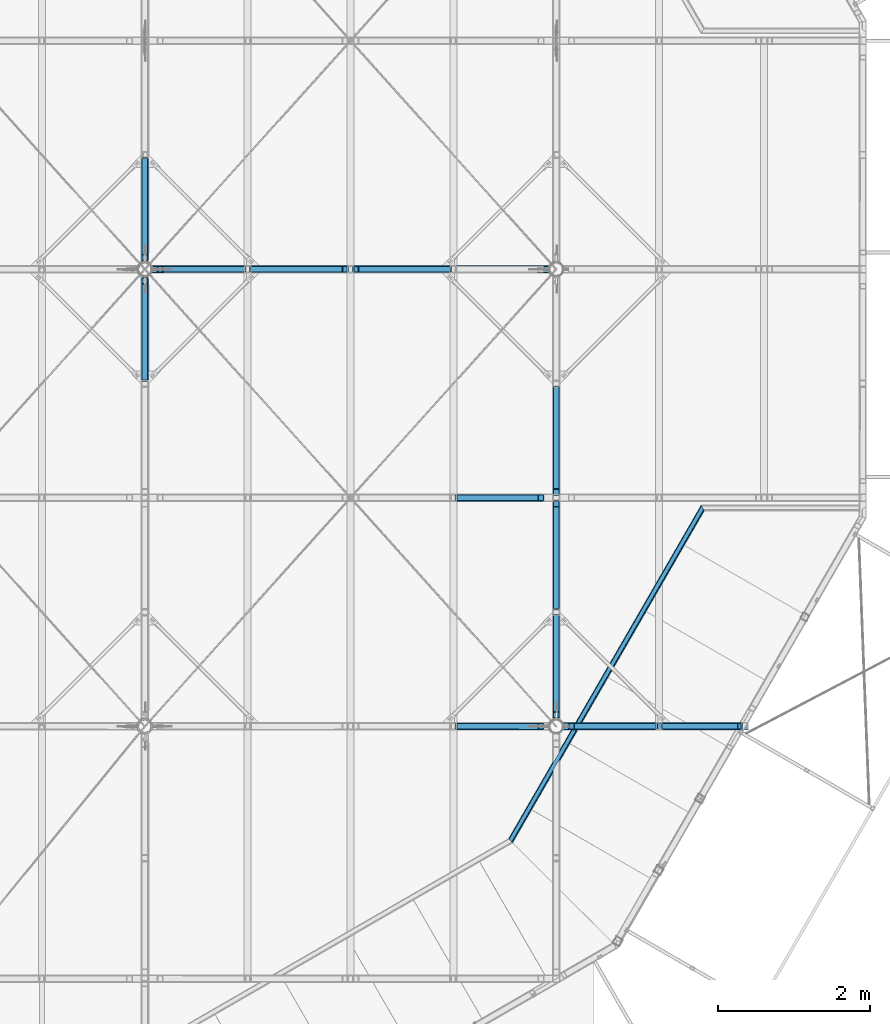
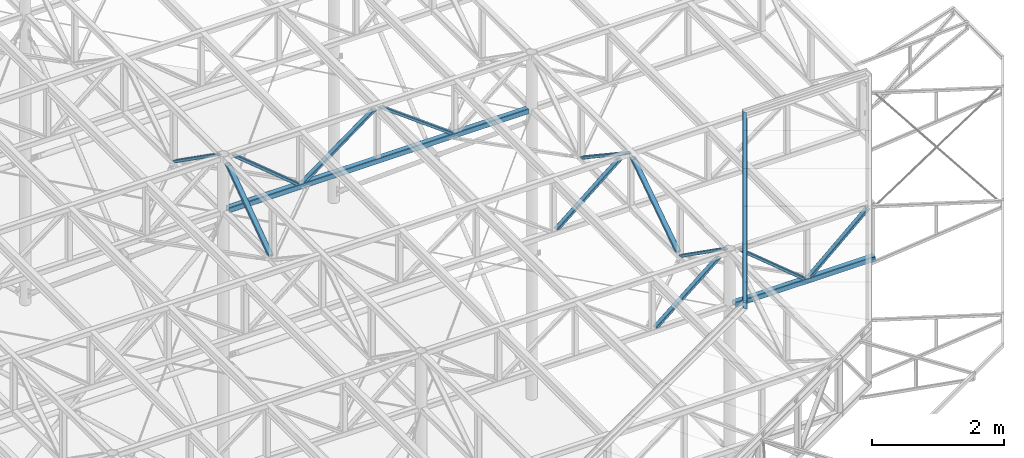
# One storey, part 49 of 132: 16 discrete accessories, 9 elements without a shape of their own.
"""IFC2X3 building model written with IfcOpenShell, lengths in millimetres."""

from ifc_helpers import new_model, si_unit, frame, origin_with_axes, origin_2d_with_axis, place, context, subcontext, project, spatial, hollow_rectangle, circle, l_section, extrude, boolean, clip, halfspace, material, type_object, element, aggregate, save


model = new_model("IFC2X3")

# Units and contexts
model_context = context("Model", 3, precision=1e-05, world=origin_with_axes())
body_context = subcontext(model_context, "Body", "Model", "MODEL_VIEW")
ifc_project = project(units=[si_unit("LENGTHUNIT", "METRE", prefix="MILLI"), si_unit("AREAUNIT", "SQUARE_METRE"), si_unit("VOLUMEUNIT", "CUBIC_METRE"), si_unit("MASSUNIT", "GRAM", prefix="KILO"), si_unit("TIMEUNIT", "SECOND"), si_unit("PLANEANGLEUNIT", "RADIAN"), si_unit("SOLIDANGLEUNIT", "STERADIAN"), si_unit("THERMODYNAMICTEMPERATUREUNIT", "DEGREE_CELSIUS"), si_unit("LUMINOUSINTENSITYUNIT", "LUMEN")], contexts=[model_context])

# Site, building, storey
site_placement = place(None, origin_with_axes())
site = spatial("IfcSite", under=ifc_project, at=site_placement, Name="Budowa", CompositionType="ELEMENT")
building_placement = place(site_placement, origin_with_axes())
building = spatial("IfcBuilding", under=site, at=building_placement, Name="Undefined", CompositionType="ELEMENT")
storey_placement = place(building_placement, origin_with_axes())
storey = spatial("IfcBuildingStorey", under=building, at=storey_placement, Name="Undefined", CompositionType="ELEMENT", Elevation=0.0)

# Assembly, discrete accessory
assembly_1_placement = place(storey_placement, origin_with_axes())
assembly_1 = element("IfcElementAssembly", 1, at=assembly_1_placement, inside=storey, Name="Steel Assembly", AssemblyPlace="NOTDEFINED", PredefinedType="RIGID_FRAME")
ifc_material = material(Name="STEEL/S235")
discrete_accessory_type = type_object("IfcDiscreteAccessoryType", Name="BEAM")
discrete_accessory_1_placement = place(assembly_1_placement, frame((19626.7468734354, 4507.40524646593, 13965.0), z_axis=(0.866025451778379, -0.499999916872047, 0.0), x_axis=(0.5000000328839, 0.866025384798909, 0.0)))
discrete_accessory_1 = element("IfcDiscreteAccessory", 2, at=discrete_accessory_1_placement, type_object=discrete_accessory_type, material=ifc_material, Name="BEAM", ObjectType="L50*6", context=body_context, shape_type="Clipping", body=[
    clip(clip(extrude(l_section(Depth=50.0, Width=50.0, Thickness=6.0, FilletRadius=7.0, EdgeRadius=3.5, at=origin_2d_with_axis()), frame((5093.05115517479, 0.0, 0.0), z_axis=(-1.0, 0.0, 0.0), x_axis=(0.0, -1.0, 0.0)), (0.0, 0.0, 1.0), 5154.16), halfspace(frame((5053.07872392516, 0.0, -24.9999999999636), z_axis=(-0.86602536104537, 0.0, -0.50000007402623), x_axis=(0.0, 1.0, 0.0)), True)), halfspace(frame((3.51101334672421e-08, 0.0, -24.9999999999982), z_axis=(-0.965925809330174, 0.0, -0.258819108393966), x_axis=(0.0, 1.0, 0.0)), False)),
])
aggregate(assembly_1, [discrete_accessory_1])

assembly_2_placement = place(storey_placement, origin_with_axes())
assembly_2 = element("IfcElementAssembly", 3, at=assembly_2_placement, inside=storey, Name="Steel Assembly", AssemblyPlace="NOTDEFINED", PredefinedType="RIGID_FRAME")
discrete_accessory_2_placement = place(assembly_2_placement, frame((19630.9837363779, 4507.74370878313, 13955.0), z_axis=(0.0, 0.0, 1.0), x_axis=(0.5000000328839, 0.866025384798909, 0.0)))
discrete_accessory_2 = element("IfcDiscreteAccessory", 4, at=discrete_accessory_2_placement, type_object=discrete_accessory_type, material=ifc_material, Name="BEAM", ObjectType="L150*75*9", context=body_context, shape_type="Clipping", body=[
    clip(clip(extrude(l_section(Depth=150.0, Width=75.0, Thickness=9.0, FilletRadius=10.5, EdgeRadius=5.5, at=origin_2d_with_axis()), frame((5115.82197564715, 0.0, -1.81898940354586e-12), z_axis=(-1.0, 0.0, 0.0), x_axis=(0.0, -1.0, 0.0)), (0.0, 0.0, 1.0), 5207.48), halfspace(frame((5055.86332877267, 37.5000000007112, -1.81898940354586e-12), z_axis=(-0.86602545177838, 0.499999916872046, 0.0), x_axis=(0.0, 0.0, 1.0)), True)), halfspace(frame((1.9117578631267e-08, 37.5000000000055, -1.81898940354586e-12), z_axis=(-0.965925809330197, 0.258819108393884, 0.0), x_axis=(0.0, 0.0, 1.0)), False)),
])
aggregate(assembly_2, [discrete_accessory_2])

# Assembly, discrete accessories
assembly_3_placement = place(storey_placement, origin_with_axes())
assembly_3 = element("IfcElementAssembly", 5, at=assembly_3_placement, inside=storey, Name="Steel Assembly", AssemblyPlace="NOTDEFINED", PredefinedType="RIGID_FRAME")
discrete_accessory_3_placement = place(assembly_3_placement, frame((20365.8999999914, 6000.00000004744, 13830.0000000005), z_axis=(0.0, -1.0, 0.0), x_axis=(0.77030791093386, 0.0, -0.637672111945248)))
solid_1 = boolean("DIFFERENCE", boolean("DIFFERENCE", extrude(hollow_rectangle(XDim=90.0, YDim=90.0, WallThickness=6.0, InnerFilletRadius=6.0, OuterFilletRadius=12.0, at=origin_2d_with_axis()), frame((1536.320462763, 38.5153958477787, 3.71073838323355e-10), z_axis=(-0.637672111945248, 0.770307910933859, 0.0), x_axis=(0.0, 0.0, -1.0)), (0.0, 0.0, 1.0), 900.0), halfspace(frame((766.012551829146, -599.15671609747, 3.71073838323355e-10), z_axis=(-0.637672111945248, 0.770307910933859, 0.0), x_axis=(0.0, 0.0, -1.0)), True)), halfspace(frame((192.107651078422, 94.1204037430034, 3.71073838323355e-10), z_axis=(0.637672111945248, -0.770307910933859, 0.0), x_axis=(0.0, 0.0, 1.0)), True))
discrete_accessory_3 = element("IfcDiscreteAccessory", 6, at=discrete_accessory_3_placement, type_object=discrete_accessory_type, material=ifc_material, Name="BEAM", ObjectType="RHS90*50*5", context=body_context, shape_type="CSG", body=[
    boolean("DIFFERENCE", boolean("DIFFERENCE", boolean("DIFFERENCE", extrude(hollow_rectangle(XDim=50.0, YDim=90.0, WallThickness=5.0, InnerFilletRadius=7.5, OuterFilletRadius=12.5, at=origin_2d_with_axis()), frame((1532.27723418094, -9.9455317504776e-13, 0.0), z_axis=(-1.0, 0.0, 0.0), x_axis=(0.0, -1.0, 0.0)), (0.0, 0.0, 1.0), 1496.35), solid_1), halfspace(frame((1536.32046239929, 38.5153955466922, 1000.0), z_axis=(-0.637672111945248, 0.770307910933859, 0.0), x_axis=(-0.770307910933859, -0.637672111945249, 0.0)), True)), halfspace(frame((31.8836055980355, -38.5153955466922, 1000.0), z_axis=(0.637672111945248, -0.770307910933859, 0.0), x_axis=(0.77030791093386, 0.637672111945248, 0.0)), True)),
])
discrete_accessory_4_placement = place(assembly_3_placement, frame((22697.9000000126, 6000.00000004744, 13830.0000000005), z_axis=(0.0, -1.0, 0.0), x_axis=(-0.747115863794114, 0.0, -0.664693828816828)))
solid_2 = boolean("DIFFERENCE", boolean("DIFFERENCE", extrude(hollow_rectangle(XDim=100.0, YDim=100.0, WallThickness=8.0, InnerFilletRadius=8.0, OuterFilletRadius=16.0, at=origin_2d_with_axis()), frame((631.459137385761, 709.760070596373, 3.71073838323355e-10), z_axis=(-0.664693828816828, -0.747115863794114, 0.0), x_axis=(0.0, 0.0, -1.0)), (0.0, 0.0, 1.0), 900.0), halfspace(frame((1378.57500117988, 45.0662417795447, 3.71073838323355e-10), z_axis=(-0.664693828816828, -0.747115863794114, 0.0), x_axis=(0.0, 0.0, -1.0)), True)), halfspace(frame((780.350555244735, -627.338035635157, 3.71073838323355e-10), z_axis=(0.664693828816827, 0.747115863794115, 0.0), x_axis=(0.0, 0.0, 1.0)), True))
solid_3 = boolean("DIFFERENCE", boolean("DIFFERENCE", extrude(hollow_rectangle(XDim=90.0, YDim=90.0, WallThickness=6.0, InnerFilletRadius=6.0, OuterFilletRadius=12.0, at=origin_2d_with_axis()), frame((1471.21736829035, -37.3557929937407, 3.71073838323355e-10), z_axis=(-0.664693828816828, -0.747115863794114, 0.0), x_axis=(0.0, 0.0, -1.0)), (0.0, 0.0, 1.0), 900.0), halfspace(frame((2218.33323208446, -702.049621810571, 3.71073838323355e-10), z_axis=(-0.664693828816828, -0.747115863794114, 0.0), x_axis=(0.0, 0.0, -1.0)), True)), halfspace(frame((1620.10878614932, -1374.45389922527, 3.71073838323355e-10), z_axis=(0.664693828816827, 0.747115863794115, 0.0), x_axis=(0.0, 0.0, 1.0)), True))
discrete_accessory_4 = element("IfcDiscreteAccessory", 7, at=discrete_accessory_4_placement, type_object=discrete_accessory_type, material=ifc_material, Name="BEAM", ObjectType="RHS90*50*5", context=body_context, shape_type="CSG", body=[
    boolean("DIFFERENCE", boolean("DIFFERENCE", boolean("DIFFERENCE", boolean("DIFFERENCE", extrude(hollow_rectangle(XDim=50.0, YDim=90.0, WallThickness=5.0, InnerFilletRadius=7.5, OuterFilletRadius=12.5, at=origin_2d_with_axis()), frame((1442.35927093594, 0.0, 0.0), z_axis=(-1.0, 0.0, 0.0), x_axis=(0.0, -1.0, 0.0)), (0.0, 0.0, 1.0), 1380.27), solid_2), solid_3), halfspace(frame((1471.21736906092, -37.3557936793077, 1000.0), z_axis=(-0.664693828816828, -0.747115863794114, 0.0), x_axis=(0.747115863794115, -0.664693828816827, 0.0)), True)), halfspace(frame((33.2346914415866, 37.3557931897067, 1000.0), z_axis=(0.664693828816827, 0.747115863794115, 0.0), x_axis=(-0.747115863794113, 0.664693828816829, 0.0)), True)),
])
discrete_accessory_5_placement = place(assembly_3_placement, frame((20313.9, 6000.00000004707, 12830.0), z_axis=(0.0, -1.0, 0.0), x_axis=(1.0, 0.0, 0.0)))
discrete_accessory_5 = element("IfcDiscreteAccessory", 8, at=discrete_accessory_5_placement, type_object=discrete_accessory_type, material=ifc_material, Name="BEAM", ObjectType="SHS100*8", context=body_context, shape_type="CSG", body=[
    boolean("DIFFERENCE", boolean("DIFFERENCE", extrude(hollow_rectangle(XDim=100.0, YDim=100.0, WallThickness=8.0, InnerFilletRadius=8.0, OuterFilletRadius=16.0, at=origin_2d_with_axis()), frame((2434.0, 0.0, 0.0), z_axis=(-1.0, 0.0, 0.0), x_axis=(0.0, -1.0, 0.0)), (0.0, 0.0, 1.0), 2522.9), extrude(circle(Radius=89.9, at=origin_2d_with_axis()), frame((-88.9000000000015, 1950.0, -5.45696821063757e-12), z_axis=(0.0, -1.0, 0.0), x_axis=(0.0, 0.0, 1.0)), (0.0, 0.0, 1.0), 2100.0)), halfspace(frame((-88.9000000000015, -5339.0, -5.45696821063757e-12), z_axis=(-1.0, 0.0, 0.0), x_axis=(0.0, 0.0, -1.0)), False)),
])
aggregate(assembly_3, [discrete_accessory_3, discrete_accessory_4, discrete_accessory_5])

# Assembly, discrete accessory
assembly_4_placement = place(storey_placement, origin_with_axes())
assembly_4 = element("IfcElementAssembly", 9, at=assembly_4_placement, inside=storey, Name="Steel Assembly", AssemblyPlace="NOTDEFINED", PredefinedType="RIGID_FRAME")
discrete_accessory_6_placement = place(assembly_4_placement, frame((20083.9999999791, 9000.00000004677, 13830.0), z_axis=(0.0, -1.0, 0.0), x_axis=(-0.770567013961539, 0.0, -0.637358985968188)))
solid_4 = boolean("DIFFERENCE", boolean("DIFFERENCE", extrude(hollow_rectangle(XDim=90.0, YDim=90.0, WallThickness=6.0, InnerFilletRadius=6.0, OuterFilletRadius=12.0, at=origin_2d_with_axis()), frame((1537.1065565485, -38.5283507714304, -6.22094376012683e-10), z_axis=(-0.637358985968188, -0.770567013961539, 0.0), x_axis=(0.770567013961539, -0.637358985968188, 0.0)), (0.0, 0.0, 1.0), 900.0), halfspace(frame((1537.1065565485, -38.5283507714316, 999.999999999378), z_axis=(-0.637358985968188, -0.770567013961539, 0.0), x_axis=(0.770567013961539, -0.637358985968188, 0.0)), True)), halfspace(frame((963.483469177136, -732.038663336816, 999.999999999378), z_axis=(0.637358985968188, 0.770567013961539, 0.0), x_axis=(-0.770567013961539, 0.637358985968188, 0.0)), True))
discrete_accessory_6 = element("IfcDiscreteAccessory", 10, at=discrete_accessory_6_placement, type_object=discrete_accessory_type, material=ifc_material, Name="BEAM", ObjectType="RHS90*50*5", context=body_context, shape_type="CSG", body=[
    boolean("DIFFERENCE", boolean("DIFFERENCE", boolean("DIFFERENCE", extrude(hollow_rectangle(XDim=50.0, YDim=90.0, WallThickness=5.0, InnerFilletRadius=7.5, OuterFilletRadius=12.5, at=origin_2d_with_axis()), frame((1533.07734352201, 2.27373675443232e-12, 0.0), z_axis=(-1.0, 0.0, 0.0), x_axis=(0.0, -1.0, 0.0)), (0.0, 0.0, 1.0), 1497.18), solid_4), halfspace(frame((1537.1065565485, -38.5283507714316, 999.999999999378), z_axis=(-0.637358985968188, -0.770567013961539, 0.0), x_axis=(0.770567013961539, -0.637358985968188, 0.0)), True)), halfspace(frame((31.867949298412, 38.52835069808, 1000.0), z_axis=(0.637358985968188, 0.770567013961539, 0.0), x_axis=(-0.770567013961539, 0.637358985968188, 0.0)), True)),
])
aggregate(assembly_4, [discrete_accessory_6])

# Assembly, discrete accessories
assembly_5_placement = place(storey_placement, origin_with_axes())
assembly_5 = element("IfcElementAssembly", 11, at=assembly_5_placement, inside=storey, Name="Steel Assembly", AssemblyPlace="NOTDEFINED", PredefinedType="RIGID_FRAME")
discrete_accessory_7_placement = place(assembly_5_placement, frame((20224.9999999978, 7499.80000004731, 12829.9999999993), z_axis=(1.0, 0.0, 0.0), x_axis=(0.0, -0.817796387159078, 0.575507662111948)))
solid_5 = boolean("DIFFERENCE", boolean("DIFFERENCE", extrude(hollow_rectangle(XDim=90.0, YDim=90.0, WallThickness=6.0, InnerFilletRadius=6.0, OuterFilletRadius=12.0, at=origin_2d_with_axis()), frame((28.6118238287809, -41.0049208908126, 2.20825313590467e-09), z_axis=(0.575507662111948, -0.817796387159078, 0.0), x_axis=(0.817796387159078, 0.575507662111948, 0.0)), (0.0, 0.0, 1.0), 900.0), halfspace(frame((28.6118238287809, -41.0049208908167, 1000.00000000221), z_axis=(0.575507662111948, -0.817796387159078, 0.0), x_axis=(0.817796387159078, 0.575507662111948, 0.0)), True)), halfspace(frame((546.568719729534, -777.021669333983, 1000.00000000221), z_axis=(-0.57550766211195, 0.817796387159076, 0.0), x_axis=(-0.817796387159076, -0.57550766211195, 0.0)), True))
discrete_accessory_7 = element("IfcDiscreteAccessory", 12, at=discrete_accessory_7_placement, type_object=discrete_accessory_type, material=ifc_material, Name="BEAM", ObjectType="RHS90*50*5", context=body_context, shape_type="CSG", body=[
    boolean("DIFFERENCE", boolean("DIFFERENCE", boolean("DIFFERENCE", extrude(hollow_rectangle(XDim=50.0, YDim=90.0, WallThickness=5.0, InnerFilletRadius=7.5, OuterFilletRadius=12.5, at=origin_2d_with_axis()), frame((1708.27858753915, 0.0, 0.0), z_axis=(-1.0, 0.0, 0.0), x_axis=(0.0, -1.0, 0.0)), (0.0, 0.0, 1.0), 1678.96), solid_5), halfspace(frame((1708.8209441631, 40.8898193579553, 1000.0), z_axis=(-0.57550766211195, 0.817796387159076, 0.0), x_axis=(-0.817796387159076, -0.57550766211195, 0.0)), True)), halfspace(frame((28.7753831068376, -40.8898193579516, 1000.0), z_axis=(0.575507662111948, -0.817796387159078, 0.0), x_axis=(0.817796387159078, 0.575507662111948, 0.0)), True)),
])
discrete_accessory_8_placement = place(assembly_5_placement, frame((20224.9999999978, 10499.8000000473, 12829.9999999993), z_axis=(1.0, 0.0, 0.0), x_axis=(0.0, -0.832050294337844, 0.554700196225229)))
solid_6 = boolean("DIFFERENCE", boolean("DIFFERENCE", extrude(hollow_rectangle(XDim=90.0, YDim=90.0, WallThickness=6.0, InnerFilletRadius=6.0, OuterFilletRadius=12.0, at=origin_2d_with_axis()), frame((27.5685997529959, -41.7134547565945, 2.20825313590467e-09), z_axis=(0.554700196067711, -0.832050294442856, 1.11090858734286e-10), x_axis=(0.832050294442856, 0.554700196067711, 1.66635594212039e-10)), (0.0, 0.0, 1.0), 900.0), halfspace(frame((27.5685997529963, -41.7134547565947, 1000.00000000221), z_axis=(0.554700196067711, -0.832050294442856, 1.11090858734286e-10), x_axis=(0.832050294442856, 0.554700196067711, 1.66635594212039e-10)), True)), halfspace(frame((526.798776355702, -790.558719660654, 1000.00000000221), z_axis=(-0.554700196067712, 0.832050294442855, -1.1109021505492e-10), x_axis=(-0.832050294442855, -0.554700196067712, -1.66634890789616e-10)), True))
solid_7 = boolean("DIFFERENCE", boolean("DIFFERENCE", extrude(hollow_rectangle(XDim=90.0, YDim=90.0, WallThickness=6.0, InnerFilletRadius=6.0, OuterFilletRadius=12.0, at=origin_2d_with_axis()), frame((1275.64404125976, 790.336839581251, 2.20825313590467e-09), z_axis=(0.554700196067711, -0.832050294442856, 1.11090858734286e-10), x_axis=(0.832050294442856, 0.554700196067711, 1.66635594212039e-10)), (0.0, 0.0, 1.0), 900.0), halfspace(frame((1275.64404125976, 790.33683958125, 1000.00000000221), z_axis=(0.554700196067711, -0.832050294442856, 1.11090858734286e-10), x_axis=(0.832050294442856, 0.554700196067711, 1.66635594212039e-10)), True)), halfspace(frame((1774.87421786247, 41.4915746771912, 1000.00000000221), z_axis=(-0.554700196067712, 0.832050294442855, -1.1109021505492e-10), x_axis=(-0.832050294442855, -0.554700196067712, -1.66634890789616e-10)), True))
discrete_accessory_8 = element("IfcDiscreteAccessory", 13, at=discrete_accessory_8_placement, type_object=discrete_accessory_type, material=ifc_material, Name="BEAM", ObjectType="RHS90*50*5", context=body_context, shape_type="CSG", body=[
    boolean("DIFFERENCE", boolean("DIFFERENCE", boolean("DIFFERENCE", boolean("DIFFERENCE", extrude(hollow_rectangle(XDim=50.0, YDim=90.0, WallThickness=5.0, InnerFilletRadius=7.5, OuterFilletRadius=12.5, at=origin_2d_with_axis()), frame((1763.05910368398, 0.0, 0.0), z_axis=(-1.0, 0.0, 0.0), x_axis=(0.0, -1.0, 0.0)), (0.0, 0.0, 1.0), 1723.34), solid_6), solid_7), halfspace(frame((1775.04062824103, 41.6025147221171, 999.999999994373), z_axis=(-0.554700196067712, 0.832050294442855, -1.1109021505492e-10), x_axis=(-0.832050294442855, -0.554700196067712, -1.66634890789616e-10)), True)), halfspace(frame((27.7350096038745, -41.6025147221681, 1000.00000000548), z_axis=(0.554700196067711, -0.832050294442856, 1.11090858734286e-10), x_axis=(0.832050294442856, 0.554700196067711, 1.66635594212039e-10)), True)),
])
discrete_accessory_9_placement = place(assembly_5_placement, frame((20224.9999999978, 7500.00000004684, 12829.9999999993), z_axis=(1.0, 0.0, 0.0), x_axis=(0.0, 0.832050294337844, 0.554700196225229)))
solid_8 = boolean("DIFFERENCE", boolean("DIFFERENCE", extrude(hollow_rectangle(XDim=90.0, YDim=90.0, WallThickness=6.0, InnerFilletRadius=6.0, OuterFilletRadius=12.0, at=origin_2d_with_axis()), frame((1275.81045145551, -790.447779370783, -2.51850795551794e-07), z_axis=(0.554700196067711, 0.832050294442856, -1.11090858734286e-10), x_axis=(-0.832050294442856, 0.554700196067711, 1.66634595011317e-10)), (0.0, 0.0, 1.0), 900.0), halfspace(frame((1275.81045165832, -790.447779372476, 999.999999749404), z_axis=(0.554700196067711, 0.832050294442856, -1.11090858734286e-10), x_axis=(-0.832050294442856, 0.554700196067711, 1.66634595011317e-10)), True)), halfspace(frame((1775.04062811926, -41.6025143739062, 999.999999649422), z_axis=(-0.554700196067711, -0.832050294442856, 1.11091980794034e-10), x_axis=(0.832050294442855, -0.554700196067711, -1.66634436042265e-10)), True))
solid_9 = boolean("DIFFERENCE", boolean("DIFFERENCE", extrude(hollow_rectangle(XDim=90.0, YDim=90.0, WallThickness=6.0, InnerFilletRadius=6.0, OuterFilletRadius=12.0, at=origin_2d_with_axis()), frame((27.7350097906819, 41.6025147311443, -4.89933715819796e-09), z_axis=(0.554700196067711, 0.832050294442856, -1.11090858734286e-10), x_axis=(-0.832050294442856, 0.554700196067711, 1.66634595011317e-10)), (0.0, 0.0, 1.0), 900.0), halfspace(frame((27.7350099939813, 41.6025147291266, 999.999999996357), z_axis=(0.554700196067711, 0.832050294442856, -1.11090858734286e-10), x_axis=(-0.832050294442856, 0.554700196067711, 1.66634595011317e-10)), True)), halfspace(frame((526.965186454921, 790.447779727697, 999.999999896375), z_axis=(-0.554700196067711, -0.832050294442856, 1.11091980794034e-10), x_axis=(0.832050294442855, -0.554700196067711, -1.66634436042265e-10)), True))
discrete_accessory_9 = element("IfcDiscreteAccessory", 14, at=discrete_accessory_9_placement, type_object=discrete_accessory_type, material=ifc_material, Name="BEAM", ObjectType="RHS90*50*5", context=body_context, shape_type="CSG", body=[
    boolean("DIFFERENCE", boolean("DIFFERENCE", boolean("DIFFERENCE", boolean("DIFFERENCE", extrude(hollow_rectangle(XDim=50.0, YDim=90.0, WallThickness=5.0, InnerFilletRadius=7.5, OuterFilletRadius=12.5, at=origin_2d_with_axis()), frame((1763.05910368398, 0.0, 0.0), z_axis=(-1.0, 0.0, 0.0), x_axis=(0.0, -1.0, 0.0)), (0.0, 0.0, 1.0), 1723.34), solid_8), solid_9), halfspace(frame((1775.04062811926, -41.6025143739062, 999.999999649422), z_axis=(-0.554700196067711, -0.832050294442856, 1.11091980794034e-10), x_axis=(0.832050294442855, -0.554700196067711, -1.66634436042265e-10)), True)), halfspace(frame((27.7350099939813, 41.6025147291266, 999.999999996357), z_axis=(0.554700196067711, 0.832050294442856, -1.11090858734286e-10), x_axis=(-0.832050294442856, 0.554700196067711, 1.66634595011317e-10)), True)),
])
aggregate(assembly_5, [discrete_accessory_7, discrete_accessory_8, discrete_accessory_9])

# Assembly, discrete accessory
assembly_6_placement = place(storey_placement, origin_with_axes())
assembly_6 = element("IfcElementAssembly", 15, at=assembly_6_placement, inside=storey, Name="Steel Assembly", AssemblyPlace="NOTDEFINED", PredefinedType="RIGID_FRAME")
discrete_accessory_10_placement = place(assembly_6_placement, frame((14824.9999999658, 13499.8000000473, 12829.9999999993), z_axis=(1.0, 0.0, 0.0), x_axis=(0.0, -0.817796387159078, 0.575507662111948)))
solid_10 = boolean("DIFFERENCE", boolean("DIFFERENCE", extrude(hollow_rectangle(XDim=90.0, YDim=90.0, WallThickness=6.0, InnerFilletRadius=6.0, OuterFilletRadius=12.0, at=origin_2d_with_axis()), frame((28.6118238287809, -41.0049208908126, 2.20825313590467e-09), z_axis=(0.575507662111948, -0.817796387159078, 0.0), x_axis=(0.817796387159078, 0.575507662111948, 0.0)), (0.0, 0.0, 1.0), 900.0), halfspace(frame((28.6118238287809, -41.0049208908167, 1000.00000000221), z_axis=(0.575507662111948, -0.817796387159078, 0.0), x_axis=(0.817796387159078, 0.575507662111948, 0.0)), True)), halfspace(frame((546.568719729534, -777.021669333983, 1000.00000000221), z_axis=(-0.57550766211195, 0.817796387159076, 0.0), x_axis=(-0.817796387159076, -0.57550766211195, 0.0)), True))
discrete_accessory_10 = element("IfcDiscreteAccessory", 16, at=discrete_accessory_10_placement, type_object=discrete_accessory_type, material=ifc_material, Name="BEAM", ObjectType="RHS90*50*5", context=body_context, shape_type="CSG", body=[
    boolean("DIFFERENCE", boolean("DIFFERENCE", boolean("DIFFERENCE", extrude(hollow_rectangle(XDim=50.0, YDim=90.0, WallThickness=5.0, InnerFilletRadius=7.5, OuterFilletRadius=12.5, at=origin_2d_with_axis()), frame((1708.27858753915, 0.0, 0.0), z_axis=(-1.0, 0.0, 0.0), x_axis=(0.0, -1.0, 0.0)), (0.0, 0.0, 1.0), 1678.96), solid_10), halfspace(frame((1708.8209441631, 40.8898193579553, 1000.0), z_axis=(-0.57550766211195, 0.817796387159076, 0.0), x_axis=(-0.817796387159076, -0.57550766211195, 0.0)), True)), halfspace(frame((28.7753831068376, -40.8898193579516, 1000.0), z_axis=(0.575507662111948, -0.817796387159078, 0.0), x_axis=(0.817796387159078, 0.575507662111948, 0.0)), True)),
])
aggregate(assembly_6, [discrete_accessory_10])

assembly_7_placement = place(storey_placement, origin_with_axes())
assembly_7 = element("IfcElementAssembly", 17, at=assembly_7_placement, inside=storey, Name="Steel Assembly", AssemblyPlace="NOTDEFINED", PredefinedType="RIGID_FRAME")
discrete_accessory_11_placement = place(assembly_7_placement, frame((14824.9999999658, 10500.0000000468, 12829.9999999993), z_axis=(1.0, 0.0, 0.0), x_axis=(0.0, 0.817796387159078, 0.575507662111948)))
solid_11 = boolean("DIFFERENCE", boolean("DIFFERENCE", extrude(hollow_rectangle(XDim=90.0, YDim=90.0, WallThickness=6.0, InnerFilletRadius=6.0, OuterFilletRadius=12.0, at=origin_2d_with_axis()), frame((28.7753831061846, 40.8898193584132, 2.20825313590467e-09), z_axis=(0.575507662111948, 0.817796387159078, 0.0), x_axis=(-0.817796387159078, 0.575507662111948, 0.0)), (0.0, 0.0, 1.0), 900.0), halfspace(frame((28.7753831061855, 40.8898193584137, 1000.00000000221), z_axis=(0.575507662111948, 0.817796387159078, 0.0), x_axis=(-0.817796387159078, 0.575507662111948, 0.0)), True)), halfspace(frame((546.732279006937, 776.906567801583, 1000.00000000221), z_axis=(-0.575507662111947, -0.817796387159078, 0.0), x_axis=(0.817796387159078, -0.575507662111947, 0.0)), True))
discrete_accessory_11 = element("IfcDiscreteAccessory", 18, at=discrete_accessory_11_placement, type_object=discrete_accessory_type, material=ifc_material, Name="BEAM", ObjectType="RHS90*50*5", context=body_context, shape_type="CSG", body=[
    boolean("DIFFERENCE", boolean("DIFFERENCE", boolean("DIFFERENCE", extrude(hollow_rectangle(XDim=50.0, YDim=90.0, WallThickness=5.0, InnerFilletRadius=7.5, OuterFilletRadius=12.5, at=origin_2d_with_axis()), frame((1708.11339266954, 0.0, 0.0), z_axis=(-1.0, 0.0, 0.0), x_axis=(0.0, -1.0, 0.0)), (0.0, 0.0, 1.0), 1678.63), solid_11), halfspace(frame((1708.8209441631, -40.8898193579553, 1000.0), z_axis=(-0.575507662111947, -0.817796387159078, 0.0), x_axis=(0.817796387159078, -0.575507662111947, 0.0)), True)), halfspace(frame((28.7753831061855, 40.8898193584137, 1000.00000000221), z_axis=(0.575507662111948, 0.817796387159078, 0.0), x_axis=(-0.817796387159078, 0.575507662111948, 0.0)), True)),
])
aggregate(assembly_7, [discrete_accessory_11])

assembly_8_placement = place(storey_placement, origin_with_axes())
assembly_8 = element("IfcElementAssembly", 19, at=assembly_8_placement, inside=storey, Name="Steel Assembly", AssemblyPlace="NOTDEFINED", PredefinedType="RIGID_FRAME")
discrete_accessory_12_placement = place(assembly_8_placement, frame((20083.9999999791, 6000.00000004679, 13830.0), z_axis=(0.0, -1.0, 0.0), x_axis=(-0.770567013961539, 0.0, -0.637358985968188)))
solid_12 = boolean("DIFFERENCE", boolean("DIFFERENCE", extrude(hollow_rectangle(XDim=90.0, YDim=90.0, WallThickness=6.0, InnerFilletRadius=6.0, OuterFilletRadius=12.0, at=origin_2d_with_axis()), frame((1537.1065565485, -38.5283507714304, -6.22094376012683e-10), z_axis=(-0.637358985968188, -0.770567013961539, 0.0), x_axis=(0.770567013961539, -0.637358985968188, 0.0)), (0.0, 0.0, 1.0), 900.0), halfspace(frame((1537.1065565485, -38.5283507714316, 999.999999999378), z_axis=(-0.637358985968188, -0.770567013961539, 0.0), x_axis=(0.770567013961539, -0.637358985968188, 0.0)), True)), halfspace(frame((963.483469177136, -732.038663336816, 999.999999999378), z_axis=(0.637358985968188, 0.770567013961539, 0.0), x_axis=(-0.770567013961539, 0.637358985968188, 0.0)), True))
discrete_accessory_12 = element("IfcDiscreteAccessory", 20, at=discrete_accessory_12_placement, type_object=discrete_accessory_type, material=ifc_material, Name="BEAM", ObjectType="RHS90*50*5", context=body_context, shape_type="CSG", body=[
    boolean("DIFFERENCE", boolean("DIFFERENCE", boolean("DIFFERENCE", extrude(hollow_rectangle(XDim=50.0, YDim=90.0, WallThickness=5.0, InnerFilletRadius=7.5, OuterFilletRadius=12.5, at=origin_2d_with_axis()), frame((1533.07734352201, 2.27373675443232e-12, 0.0), z_axis=(-1.0, 0.0, 0.0), x_axis=(0.0, -1.0, 0.0)), (0.0, 0.0, 1.0), 1497.18), solid_12), halfspace(frame((1537.1065565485, -38.5283507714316, 999.999999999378), z_axis=(-0.637358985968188, -0.770567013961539, 0.0), x_axis=(0.770567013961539, -0.637358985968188, 0.0)), True)), halfspace(frame((31.867949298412, 38.52835069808, 1000.0), z_axis=(0.637358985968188, 0.770567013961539, 0.0), x_axis=(-0.770567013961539, 0.637358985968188, 0.0)), True)),
])
aggregate(assembly_8, [discrete_accessory_12])

# Assembly, discrete accessories
assembly_9_placement = place(storey_placement, origin_with_axes())
assembly_9 = element("IfcElementAssembly", 21, at=assembly_9_placement, inside=storey, Name="Steel Assembly", AssemblyPlace="NOTDEFINED", PredefinedType="RIGID_FRAME")
discrete_accessory_13_placement = place(assembly_9_placement, frame((14965.9999999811, 12000.0000000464, 13830.0), z_axis=(0.0, -1.0, 0.0), x_axis=(0.770567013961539, 0.0, -0.637358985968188)))
solid_13 = boolean("DIFFERENCE", boolean("DIFFERENCE", extrude(hollow_rectangle(XDim=90.0, YDim=90.0, WallThickness=6.0, InnerFilletRadius=6.0, OuterFilletRadius=12.0, at=origin_2d_with_axis()), frame((1537.1065565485, 38.528350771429, -6.22094376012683e-10), z_axis=(-0.637358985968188, 0.770567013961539, 0.0), x_axis=(-0.770567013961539, -0.637358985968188, 0.0)), (0.0, 0.0, 1.0), 900.0), halfspace(frame((1537.1065565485, 38.5283507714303, 999.999999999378), z_axis=(-0.637358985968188, 0.770567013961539, 0.0), x_axis=(-0.770567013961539, -0.637358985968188, 0.0)), True)), halfspace(frame((963.483469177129, 732.038663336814, 999.999999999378), z_axis=(0.637358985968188, -0.770567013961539, 0.0), x_axis=(0.770567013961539, 0.637358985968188, 0.0)), True))
discrete_accessory_13 = element("IfcDiscreteAccessory", 22, at=discrete_accessory_13_placement, type_object=discrete_accessory_type, material=ifc_material, Name="BEAM", ObjectType="RHS90*50*5", context=body_context, shape_type="CSG", body=[
    boolean("DIFFERENCE", boolean("DIFFERENCE", boolean("DIFFERENCE", extrude(hollow_rectangle(XDim=50.0, YDim=90.0, WallThickness=5.0, InnerFilletRadius=7.5, OuterFilletRadius=12.5, at=origin_2d_with_axis()), frame((1533.07734352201, 2.27373675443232e-12, 0.0), z_axis=(-1.0, 0.0, 0.0), x_axis=(0.0, -1.0, 0.0)), (0.0, 0.0, 1.0), 1497.18), solid_13), halfspace(frame((1537.1065565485, 38.5283507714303, 999.999999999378), z_axis=(-0.637358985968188, 0.770567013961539, 0.0), x_axis=(-0.770567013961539, -0.637358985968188, 0.0)), True)), halfspace(frame((31.867949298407, -38.5283506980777, 1000.0), z_axis=(0.637358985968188, -0.770567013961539, 0.0), x_axis=(0.770567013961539, 0.637358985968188, 0.0)), True)),
])
discrete_accessory_14_placement = place(assembly_9_placement, frame((17524.9999999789, 12000.0000000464, 13830.0), z_axis=(0.0, -1.0, 0.0), x_axis=(-0.803557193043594, 0.0, -0.595227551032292)))
solid_14 = boolean("DIFFERENCE", boolean("DIFFERENCE", extrude(hollow_rectangle(XDim=90.0, YDim=90.0, WallThickness=6.0, InnerFilletRadius=6.0, OuterFilletRadius=12.0, at=origin_2d_with_axis()), frame((565.466173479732, 763.379333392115, -6.22094376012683e-10), z_axis=(-0.595227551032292, -0.803557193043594, 0.0), x_axis=(0.803557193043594, -0.595227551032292, 0.0)), (0.0, 0.0, 1.0), 900.0), halfspace(frame((565.46617347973, 763.379333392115, 999.999999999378), z_axis=(-0.595227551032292, -0.803557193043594, 0.0), x_axis=(0.803557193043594, -0.595227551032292, 0.0)), True)), halfspace(frame((29.7613775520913, 40.1778596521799, 1000.0), z_axis=(0.595227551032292, 0.803557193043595, 0.0), x_axis=(-0.803557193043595, 0.595227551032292, 0.0)), True))
solid_15 = boolean("DIFFERENCE", boolean("DIFFERENCE", extrude(hollow_rectangle(XDim=90.0, YDim=90.0, WallThickness=6.0, InnerFilletRadius=6.0, OuterFilletRadius=12.0, at=origin_2d_with_axis()), frame((1650.26838408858, -40.1778605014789, -6.22094376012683e-10), z_axis=(-0.595227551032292, -0.803557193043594, 0.0), x_axis=(0.803557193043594, -0.595227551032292, 0.0)), (0.0, 0.0, 1.0), 900.0), halfspace(frame((1650.2683829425, -40.1778596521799, 1000.0), z_axis=(-0.595227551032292, -0.803557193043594, 0.0), x_axis=(0.803557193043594, -0.595227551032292, 0.0)), True)), halfspace(frame((1114.56358815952, -763.379334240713, 999.999999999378), z_axis=(0.595227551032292, 0.803557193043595, 0.0), x_axis=(-0.803557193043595, 0.595227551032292, 0.0)), True))
discrete_accessory_14 = element("IfcDiscreteAccessory", 23, at=discrete_accessory_14_placement, type_object=discrete_accessory_type, material=ifc_material, Name="BEAM", ObjectType="RHS90*50*5", context=body_context, shape_type="CSG", body=[
    boolean("DIFFERENCE", boolean("DIFFERENCE", boolean("DIFFERENCE", boolean("DIFFERENCE", extrude(hollow_rectangle(XDim=50.0, YDim=90.0, WallThickness=5.0, InnerFilletRadius=7.5, OuterFilletRadius=12.5, at=origin_2d_with_axis()), frame((1632.54994793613, 0.0, 0.0), z_axis=(-1.0, 0.0, 0.0), x_axis=(0.0, -1.0, 0.0)), (0.0, 0.0, 1.0), 1585.07), solid_14), solid_15), halfspace(frame((1650.2683829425, -40.1778596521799, 1000.0), z_axis=(-0.595227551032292, -0.803557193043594, 0.0), x_axis=(0.803557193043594, -0.595227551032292, 0.0)), True)), halfspace(frame((29.7613775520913, 40.1778596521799, 1000.0), z_axis=(0.595227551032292, 0.803557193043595, 0.0), x_axis=(-0.803557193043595, 0.595227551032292, 0.0)), True)),
])
discrete_accessory_15_placement = place(assembly_9_placement, frame((17524.9999999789, 12000.0000000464, 13830.0), z_axis=(0.0, -1.0, 0.0), x_axis=(0.803557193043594, 0.0, -0.595227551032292)))
solid_16 = boolean("DIFFERENCE", boolean("DIFFERENCE", extrude(hollow_rectangle(XDim=90.0, YDim=90.0, WallThickness=6.0, InnerFilletRadius=6.0, OuterFilletRadius=12.0, at=origin_2d_with_axis()), frame((1650.26838408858, 40.1778605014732, -6.22094376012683e-10), z_axis=(-0.595227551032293, 0.803557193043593, 0.0), x_axis=(-0.803557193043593, -0.595227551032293, 0.0)), (0.0, 0.0, 1.0), 900.0), halfspace(frame((1650.2683829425, 40.1778596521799, 1000.0), z_axis=(-0.595227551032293, 0.803557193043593, 0.0), x_axis=(-0.803557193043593, -0.595227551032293, 0.0)), True)), halfspace(frame((1114.56358815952, 763.379334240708, 999.999999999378), z_axis=(0.595227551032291, -0.803557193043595, 0.0), x_axis=(0.803557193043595, 0.595227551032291, 0.0)), True))
solid_17 = boolean("DIFFERENCE", boolean("DIFFERENCE", extrude(hollow_rectangle(XDim=90.0, YDim=90.0, WallThickness=6.0, InnerFilletRadius=6.0, OuterFilletRadius=12.0, at=origin_2d_with_axis()), frame((565.46617347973, -763.379333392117, -6.22094376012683e-10), z_axis=(-0.595227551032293, 0.803557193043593, 0.0), x_axis=(-0.803557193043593, -0.595227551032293, 0.0)), (0.0, 0.0, 1.0), 900.0), halfspace(frame((565.46617347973, -763.37933339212, 999.999999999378), z_axis=(-0.595227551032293, 0.803557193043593, 0.0), x_axis=(-0.803557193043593, -0.595227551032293, 0.0)), True)), halfspace(frame((29.7613775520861, -40.1778596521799, 1000.0), z_axis=(0.595227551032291, -0.803557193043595, 0.0), x_axis=(0.803557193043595, 0.595227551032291, 0.0)), True))
discrete_accessory_15 = element("IfcDiscreteAccessory", 24, at=discrete_accessory_15_placement, type_object=discrete_accessory_type, material=ifc_material, Name="BEAM", ObjectType="RHS90*50*5", context=body_context, shape_type="CSG", body=[
    boolean("DIFFERENCE", boolean("DIFFERENCE", boolean("DIFFERENCE", boolean("DIFFERENCE", extrude(hollow_rectangle(XDim=50.0, YDim=90.0, WallThickness=5.0, InnerFilletRadius=7.5, OuterFilletRadius=12.5, at=origin_2d_with_axis()), frame((1632.54994793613, 0.0, 0.0), z_axis=(-1.0, 0.0, 0.0), x_axis=(0.0, -1.0, 0.0)), (0.0, 0.0, 1.0), 1585.07), solid_16), solid_17), halfspace(frame((1650.2683829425, 40.1778596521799, 1000.0), z_axis=(-0.595227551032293, 0.803557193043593, 0.0), x_axis=(-0.803557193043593, -0.595227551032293, 0.0)), True)), halfspace(frame((29.7613775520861, -40.1778596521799, 1000.0), z_axis=(0.595227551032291, -0.803557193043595, 0.0), x_axis=(0.803557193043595, 0.595227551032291, 0.0)), True)),
])
discrete_accessory_16_placement = place(assembly_9_placement, frame((14913.9999999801, 12000.000000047, 12830.0), z_axis=(0.0, -1.0, 0.0), x_axis=(1.0, 0.0, 0.0)))
discrete_accessory_16 = element("IfcDiscreteAccessory", 25, at=discrete_accessory_16_placement, type_object=discrete_accessory_type, material=ifc_material, Name="BEAM", ObjectType="SHS100*8", context=body_context, shape_type="CSG", body=[
    boolean("DIFFERENCE", boolean("DIFFERENCE", boolean("DIFFERENCE", boolean("DIFFERENCE", extrude(hollow_rectangle(XDim=100.0, YDim=100.0, WallThickness=8.0, InnerFilletRadius=8.0, OuterFilletRadius=16.0, at=origin_2d_with_axis()), frame((5311.00000001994, 0.0, 0.0), z_axis=(-1.0, 0.0, 0.0), x_axis=(0.0, -1.0, 0.0)), (0.0, 0.0, 1.0), 5400.0), extrude(circle(Radius=89.9, at=origin_2d_with_axis()), frame((5311.00000001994, 1950.0, 7.27595761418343e-12), z_axis=(0.0, -1.0, 0.0), x_axis=(0.0, 0.0, 1.0)), (0.0, 0.0, 1.0), 2100.0)), extrude(circle(Radius=89.9, at=origin_2d_with_axis()), frame((-89.0000000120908, 1950.0, 1.09139364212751e-11), z_axis=(0.0, -1.0, 0.0), x_axis=(0.0, 0.0, 1.0)), (0.0, 0.0, 1.0), 2100.0)), halfspace(frame((5311.00000001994, -5339.0, 7.27595761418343e-12), z_axis=(-1.0, 0.0, 0.0), x_axis=(0.0, 0.0, -1.0)), True)), halfspace(frame((-89.0000000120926, -5339.0, 1.09139364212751e-11), z_axis=(-1.0, 0.0, 0.0), x_axis=(0.0, 0.0, -1.0)), False)),
])
aggregate(assembly_9, [discrete_accessory_13, discrete_accessory_14, discrete_accessory_15, discrete_accessory_16])

save(model, "model.ifc")
